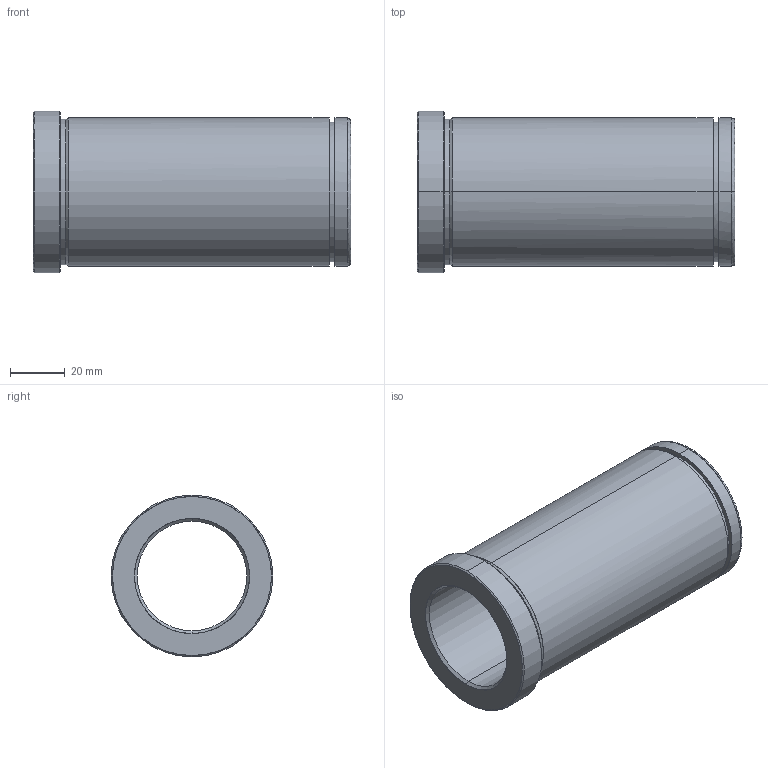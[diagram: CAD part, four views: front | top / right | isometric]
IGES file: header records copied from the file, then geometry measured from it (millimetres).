
Start section: START RECORD GO HERE.
Global section: file name: 553-40X116.igs; native system: DASSAULT SYSTEMES CATIA V5 R20 - www.3ds.com; preprocessor: CATIA Version 5 Release 20 ; author: Utente; organization: NB04-ASUS; date: 20210603.202553; units: millimetre
Bounding box: 116 x 59 x 59 mm (x, y, z)
Surface area: 37539.5 mm2 (no closed solid volume)
Topology: 0 solids, 0 shells, 29 faces, 184 edges, 184 vertices
Faces by surface type: revolution 24, plane 5
